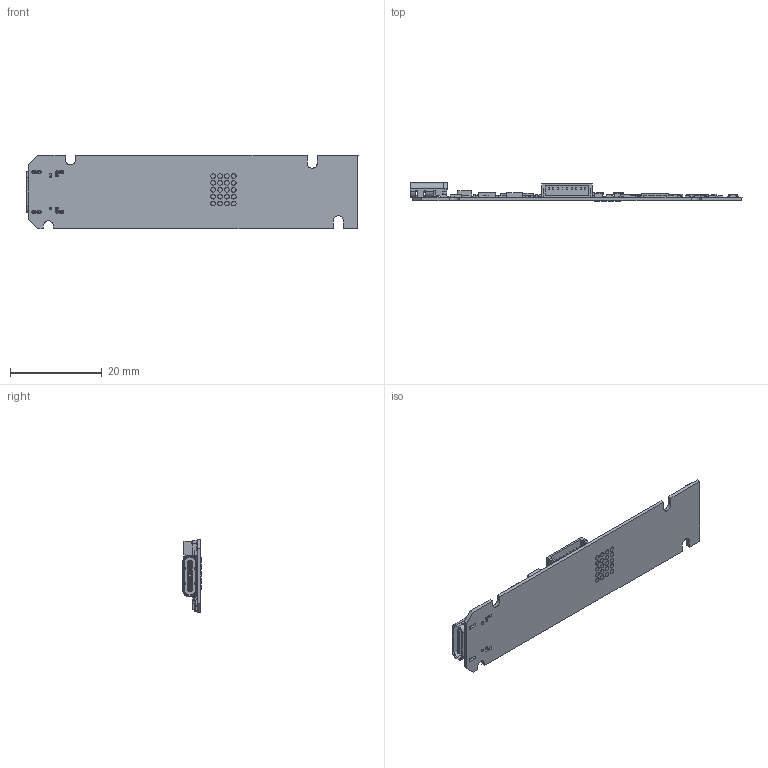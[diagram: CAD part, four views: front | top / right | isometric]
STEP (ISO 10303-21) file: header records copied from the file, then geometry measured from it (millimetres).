
FILE_DESCRIPTION (( 'STEP AP214' ), '1' );
FILE_NAME ('PC0661 REV05 13-JUL-17.STEP', '2017-07-13T16:35:32', ( '' ), ( '' ), 'SwSTEP 2.0', 'SolidWorks 2015', '' );
FILE_SCHEMA (( 'AUTOMOTIVE_DESIGN' ));
Length unit declared in the file: millimetre
Products named in the file (6): K3D-DX07S024JJ3-V1 JAE USB C; SM09B-SRSS-TB; PC0661; 20709-050E; PC066105 13-JUL-17; PC0661 REV05 13-JUL-17
Assembly tree (6 placements, depth 2):
  PC0661 REV05 13-JUL-17
    PC0661
    20709-050E  x2
    SM09B-SRSS-TB
    K3D-DX07S024JJ3-V1 JAE USB C
    PC066105 13-JUL-17
Bounding box: 72.5 x 3.99 x 16 mm (x, y, z)
Volume: 1325.7 mm3; surface area: 4425.8 mm2
Topology: 264 solids, 264 shells, 9342 faces, 23949 edges, 15331 vertices
Faces by surface type: plane 6161, cylinder 1814, cone 1303, bspline 64
Entity records: 200954 total; most frequent: CARTESIAN_POINT 35605, ORIENTED_EDGE 30082, DIRECTION 28617, EDGE_CURVE 15041, VECTOR 11327, LINE 11327, VERTEX_POINT 9696, AXIS2_PLACEMENT_3D 8645
